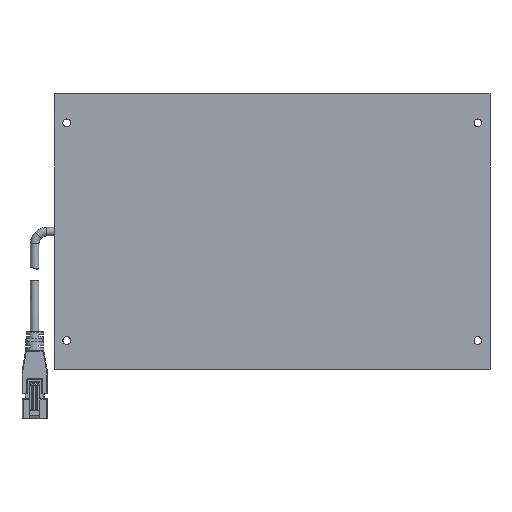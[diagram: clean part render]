
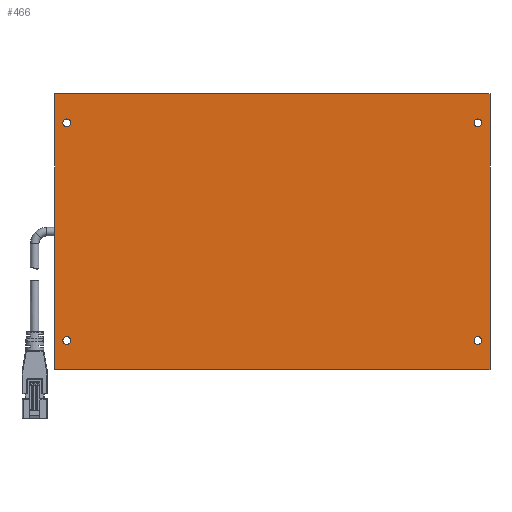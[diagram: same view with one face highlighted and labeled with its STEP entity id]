
A CAD part, front view. The second image highlights one B-rep face of the part: STEP entity #466.
In plain terms, the highlighted planar face has unit normal (0, -1, 0).
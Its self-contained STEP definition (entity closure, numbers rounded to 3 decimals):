
#1=CARTESIAN_POINT('',(-85.,0.,-45.));
#2=DIRECTION('',(0.,-1.,0.));
#3=DIRECTION('',(1.,0.,0.));
#4=AXIS2_PLACEMENT_3D('',#1,#2,#3);
#6=CARTESIAN_POINT('',(-85.,0.,-45.));
#7=DIRECTION('',(0.,-1.,0.));
#8=DIRECTION('',(-1.,0.,0.));
#9=AXIS2_PLACEMENT_3D('',#6,#7,#8);
#11=CARTESIAN_POINT('',(-85.,0.,45.));
#12=DIRECTION('',(0.,-1.,0.));
#13=DIRECTION('',(-1.,0.,0.));
#14=AXIS2_PLACEMENT_3D('',#11,#12,#13);
#16=CARTESIAN_POINT('',(-85.,0.,45.));
#17=DIRECTION('',(0.,-1.,0.));
#18=DIRECTION('',(1.,0.,0.));
#19=AXIS2_PLACEMENT_3D('',#16,#17,#18);
#21=CARTESIAN_POINT('',(85.,0.,-45.));
#22=DIRECTION('',(0.,-1.,0.));
#23=DIRECTION('',(1.,0.,0.));
#24=AXIS2_PLACEMENT_3D('',#21,#22,#23);
#26=CARTESIAN_POINT('',(85.,0.,-45.));
#27=DIRECTION('',(0.,-1.,0.));
#28=DIRECTION('',(-1.,0.,0.));
#29=AXIS2_PLACEMENT_3D('',#26,#27,#28);
#31=CARTESIAN_POINT('',(85.,0.,45.));
#32=DIRECTION('',(0.,-1.,0.));
#33=DIRECTION('',(-1.,0.,0.));
#34=AXIS2_PLACEMENT_3D('',#31,#32,#33);
#36=CARTESIAN_POINT('',(85.,0.,45.));
#37=DIRECTION('',(0.,-1.,0.));
#38=DIRECTION('',(1.,0.,0.));
#39=AXIS2_PLACEMENT_3D('',#36,#37,#38);
#41=DIRECTION('',(0.,0.,-1.));
#42=VECTOR('',#41,114.);
#43=CARTESIAN_POINT('',(-90.,0.,57.));
#44=LINE('',#43,#42);
#57=DIRECTION('',(1.,0.,0.));
#58=VECTOR('',#57,180.);
#59=CARTESIAN_POINT('',(-90.,0.,-57.));
#60=LINE('',#59,#58);
#109=DIRECTION('',(-1.,0.,0.));
#110=VECTOR('',#109,180.);
#111=CARTESIAN_POINT('',(90.,0.,57.));
#112=LINE('',#111,#110);
#303=DIRECTION('',(0.,0.,1.));
#304=VECTOR('',#303,114.);
#305=CARTESIAN_POINT('',(90.,0.,-57.));
#306=LINE('',#305,#304);
#327=CARTESIAN_POINT('',(-90.,0.,57.));
#328=CARTESIAN_POINT('',(-90.,0.,-57.));
#329=VERTEX_POINT('',#327);
#330=VERTEX_POINT('',#328);
#331=CARTESIAN_POINT('',(90.,0.,57.));
#332=VERTEX_POINT('',#331);
#333=CARTESIAN_POINT('',(90.,0.,-57.));
#334=VERTEX_POINT('',#333);
#335=CARTESIAN_POINT('',(-83.4,0.,-45.));
#336=CARTESIAN_POINT('',(-86.6,0.,-45.));
#337=VERTEX_POINT('',#335);
#338=VERTEX_POINT('',#336);
#339=CARTESIAN_POINT('',(-86.6,0.,45.));
#340=CARTESIAN_POINT('',(-83.4,0.,45.));
#341=VERTEX_POINT('',#339);
#342=VERTEX_POINT('',#340);
#343=CARTESIAN_POINT('',(86.6,0.,-45.));
#344=CARTESIAN_POINT('',(83.4,0.,-45.));
#345=VERTEX_POINT('',#343);
#346=VERTEX_POINT('',#344);
#347=CARTESIAN_POINT('',(83.4,0.,45.));
#348=CARTESIAN_POINT('',(86.6,0.,45.));
#349=VERTEX_POINT('',#347);
#350=VERTEX_POINT('',#348);
#427=CARTESIAN_POINT('',(0.,0.,0.));
#428=DIRECTION('',(0.,1.,0.));
#429=DIRECTION('',(1.,0.,0.));
#430=AXIS2_PLACEMENT_3D('',#427,#428,#429);
#431=PLANE('',#430);
#433=ORIENTED_EDGE('',*,*,#432,.F.);
#435=ORIENTED_EDGE('',*,*,#434,.F.);
#437=ORIENTED_EDGE('',*,*,#436,.F.);
#439=ORIENTED_EDGE('',*,*,#438,.F.);
#440=EDGE_LOOP('',(#433,#435,#437,#439));
#441=FACE_OUTER_BOUND('',#440,.F.);
#443=ORIENTED_EDGE('',*,*,#442,.T.);
#445=ORIENTED_EDGE('',*,*,#444,.T.);
#446=EDGE_LOOP('',(#443,#445));
#447=FACE_BOUND('',#446,.F.);
#449=ORIENTED_EDGE('',*,*,#448,.T.);
#451=ORIENTED_EDGE('',*,*,#450,.T.);
#452=EDGE_LOOP('',(#449,#451));
#453=FACE_BOUND('',#452,.F.);
#455=ORIENTED_EDGE('',*,*,#454,.T.);
#457=ORIENTED_EDGE('',*,*,#456,.T.);
#458=EDGE_LOOP('',(#455,#457));
#459=FACE_BOUND('',#458,.F.);
#461=ORIENTED_EDGE('',*,*,#460,.T.);
#463=ORIENTED_EDGE('',*,*,#462,.T.);
#464=EDGE_LOOP('',(#461,#463));
#465=FACE_BOUND('',#464,.F.);
#5=CIRCLE('',#4,1.6);
#10=CIRCLE('',#9,1.6);
#15=CIRCLE('',#14,1.6);
#20=CIRCLE('',#19,1.6);
#25=CIRCLE('',#24,1.6);
#30=CIRCLE('',#29,1.6);
#35=CIRCLE('',#34,1.6);
#40=CIRCLE('',#39,1.6);
#432=EDGE_CURVE('',#329,#330,#44,.T.);
#434=EDGE_CURVE('',#332,#329,#112,.T.);
#436=EDGE_CURVE('',#334,#332,#306,.T.);
#438=EDGE_CURVE('',#330,#334,#60,.T.);
#442=EDGE_CURVE('',#337,#338,#5,.T.);
#444=EDGE_CURVE('',#338,#337,#10,.T.);
#448=EDGE_CURVE('',#341,#342,#15,.T.);
#450=EDGE_CURVE('',#342,#341,#20,.T.);
#454=EDGE_CURVE('',#345,#346,#25,.T.);
#456=EDGE_CURVE('',#346,#345,#30,.T.);
#460=EDGE_CURVE('',#349,#350,#35,.T.);
#462=EDGE_CURVE('',#350,#349,#40,.T.);
#466=ADVANCED_FACE('',(#441,#447,#453,#459,#465),#431,.F.);
